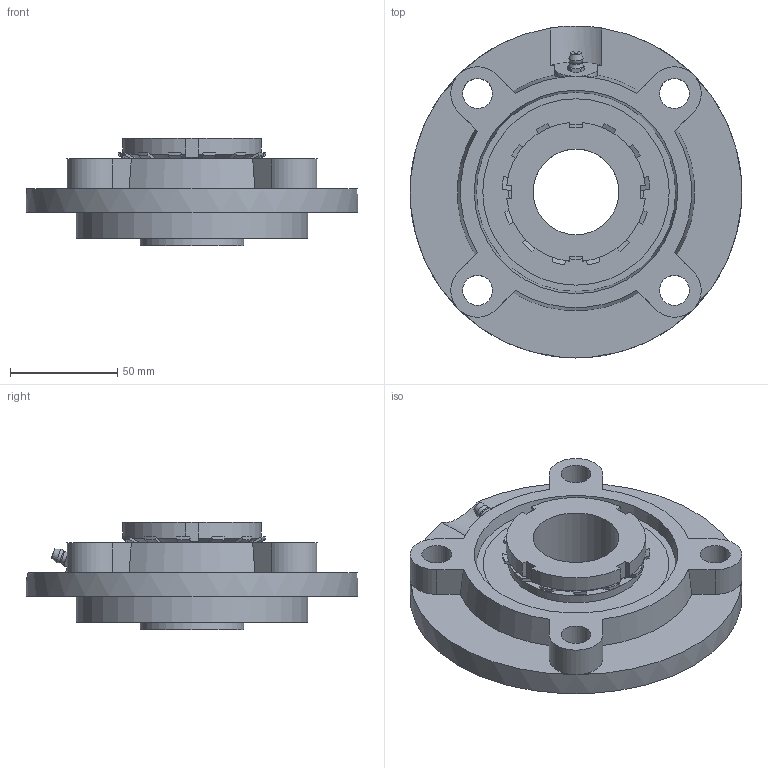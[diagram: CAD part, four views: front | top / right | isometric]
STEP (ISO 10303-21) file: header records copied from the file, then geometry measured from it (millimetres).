
FILE_DESCRIPTION((''),'2;1');
FILE_NAME('\\Ts-tgl068\j-cad-d-base\00.3DCADデータ作成フォルダ\02.フランジ形\UKFCX\UKFCX09+H.stp','2014-12-10T08:24:44',('btec_1106_2'),(''),'Autodesk Inventor 2012','Autodesk Inventor 2012','');
FILE_SCHEMA(('AUTOMOTIVE_DESIGN { 1 0 10303 214 1 1 1 1 }'));
Length unit declared in the file: millimetre
Products named in the file (4): UKFCX00+H; FCX09; UKX09+H; GU1
Assembly tree (3 placements, depth 2):
  UKFCX00+H
    FCX09
    UKX09+H
    GU1
Bounding box: 155 x 155 x 50 mm (x, y, z)
Volume: 376680.6 mm3; surface area: 85152.5 mm2
Topology: 3 solids, 3 shells, 180 faces, 476 edges, 310 vertices
Faces by surface type: plane 77, cone 50, cylinder 47, sphere 4, torus 2
Full cylindrical faces by diameter (mm): 5.359 x1, 6.35 x1, 14 x4, 40 x1, 63 x2, 108 x1, 155 x1
Entity records: 5545 total; most frequent: CARTESIAN_POINT 1268, ORIENTED_EDGE 898, DIRECTION 852, EDGE_CURVE 449, AXIS2_PLACEMENT_3D 348, VERTEX_POINT 304, EDGE_LOOP 223, FACE_OUTER_BOUND 180
